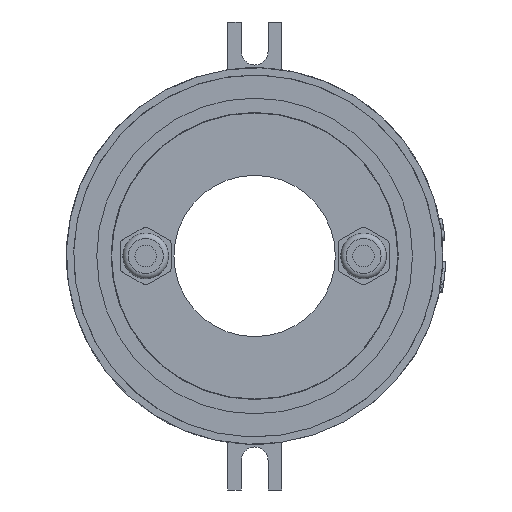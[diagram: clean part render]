
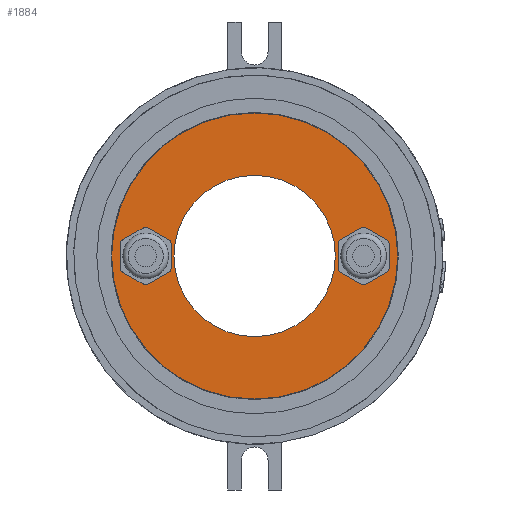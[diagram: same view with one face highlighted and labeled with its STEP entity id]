
A CAD part, left-side view. The second image highlights one B-rep face of the part: STEP entity #1884.
In plain terms, the highlighted planar face has unit normal (-1, 0, 0).
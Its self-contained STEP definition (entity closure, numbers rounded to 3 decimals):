
#376=FACE_BOUND('',#3488,.T.);
#377=FACE_BOUND('',#3489,.T.);
#378=FACE_BOUND('',#3490,.T.);
#379=FACE_BOUND('',#3491,.T.);
#654=CIRCLE('',#9563,9.5);
#679=CIRCLE('',#9613,9.5);
#706=CIRCLE('',#9681,30.);
#707=CIRCLE('',#9682,53.2);
#1108=PLANE('',#9683);
#1884=ADVANCED_FACE('',(#376,#377,#378,#379),#1108,.T.);
#3488=EDGE_LOOP('',(#5348));
#3489=EDGE_LOOP('',(#5349));
#3490=EDGE_LOOP('',(#5350));
#3491=EDGE_LOOP('',(#5351));
#5348=ORIENTED_EDGE('',*,*,#8058,.F.);
#5349=ORIENTED_EDGE('',*,*,#8107,.F.);
#5350=ORIENTED_EDGE('',*,*,#8140,.T.);
#5351=ORIENTED_EDGE('',*,*,#8141,.F.);
#6902=VERTEX_POINT('',#33228);
#6939=VERTEX_POINT('',#33339);
#6976=VERTEX_POINT('',#33792);
#6977=VERTEX_POINT('',#33794);
#8058=EDGE_CURVE('',#6902,#6902,#654,.T.);
#8107=EDGE_CURVE('',#6939,#6939,#679,.T.);
#8140=EDGE_CURVE('',#6976,#6976,#706,.T.);
#8141=EDGE_CURVE('',#6977,#6977,#707,.T.);
#9563=AXIS2_PLACEMENT_3D('',#33227,#10891,#10892);
#9613=AXIS2_PLACEMENT_3D('',#33338,#11015,#11016);
#9681=AXIS2_PLACEMENT_3D('',#33791,#11151,#11152);
#9682=AXIS2_PLACEMENT_3D('',#33793,#11153,#11154);
#9683=AXIS2_PLACEMENT_3D('',#33795,#11155,#11156);
#10891=DIRECTION('',(-1.,0.,0.));
#10892=DIRECTION('',(0.,1.,0.));
#11015=DIRECTION('',(-1.,0.,0.));
#11016=DIRECTION('',(0.,0.5,0.866));
#11151=DIRECTION('',(1.,0.,0.));
#11152=DIRECTION('',(0.,0.,-1.));
#11153=DIRECTION('',(1.,0.,0.));
#11154=DIRECTION('',(0.,0.,-1.));
#11155=DIRECTION('',(-1.,0.,0.));
#11156=DIRECTION('',(0.,0.,1.));
#33227=CARTESIAN_POINT('',(-96.,-40.5,0.));
#33228=CARTESIAN_POINT('',(-96.,-31.,0.));
#33338=CARTESIAN_POINT('',(-96.,40.5,0.));
#33339=CARTESIAN_POINT('',(-96.,45.25,8.227));
#33791=CARTESIAN_POINT('',(-96.,0.,0.));
#33792=CARTESIAN_POINT('',(-96.,0.,-30.));
#33793=CARTESIAN_POINT('',(-96.,0.,0.));
#33794=CARTESIAN_POINT('',(-96.,0.,-53.2));
#33795=CARTESIAN_POINT('',(-96.,30.,0.));
